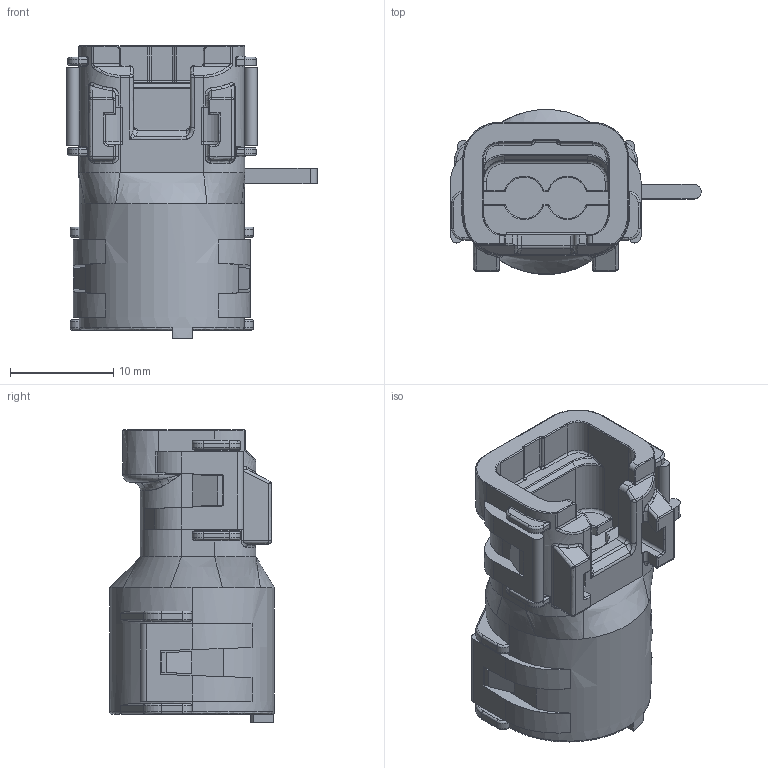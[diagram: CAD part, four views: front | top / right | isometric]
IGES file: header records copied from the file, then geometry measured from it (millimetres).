
Start section:  PTC IGES file: c-1011-273-0205-99-3d.igs
Global section: file name: c-1011-273-0205-99-3d.igs; native system: Creo Parametric by Parametric Technology Corporation; preprocessor: 2013050; author: workeradm; organization: Unknown; units: millimetre
Bounding box: 24.34 x 15.99 x 28.4 mm (x, y, z)
Surface area: 2677.6 mm2 (no closed solid volume)
Topology: 0 solids, 0 shells, 526 faces, 2638 edges, 2638 vertices
Faces by surface type: revolution 305, bspline 221
